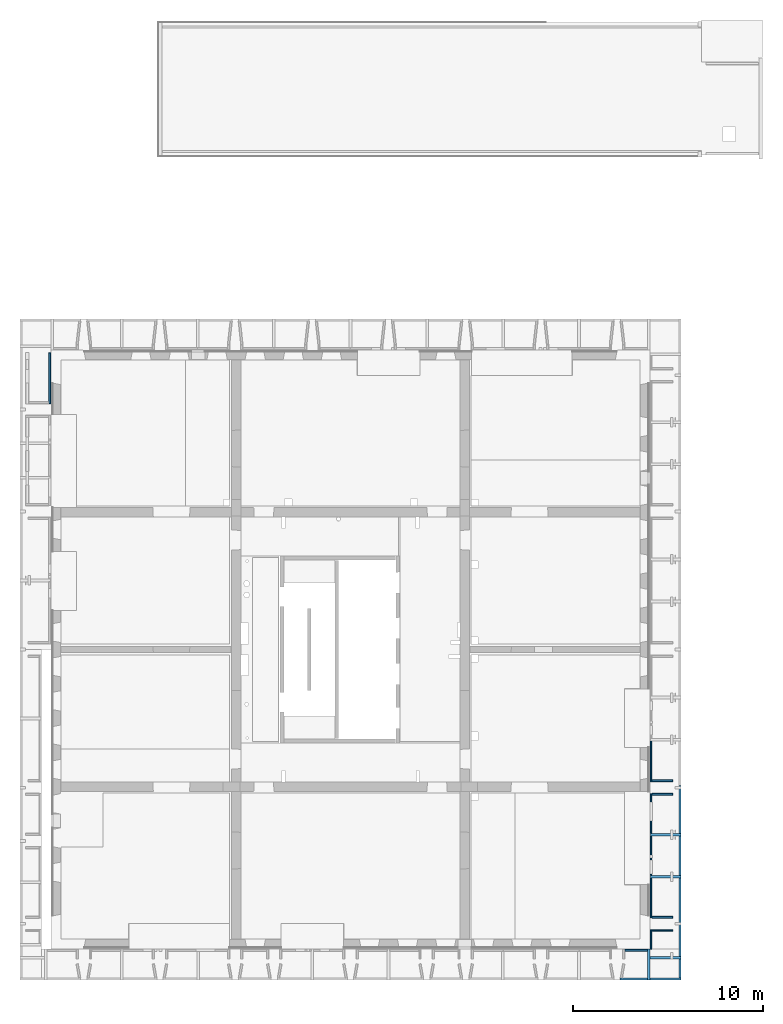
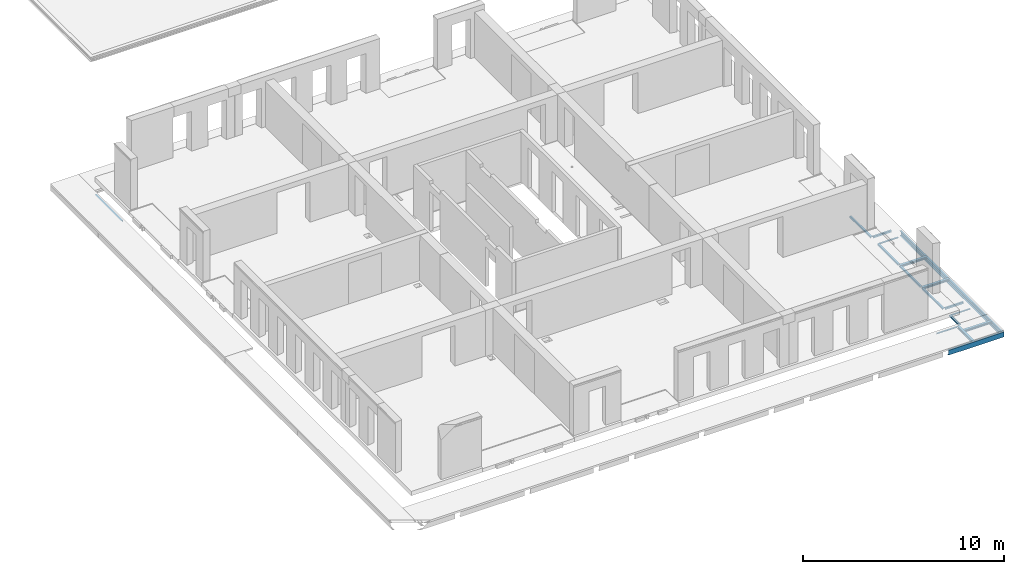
# One storey, part 5 of 27: 17 beams.
"""IFC2X3 building model written with IfcOpenShell, lengths in millimetres."""

from ifc_helpers import new_model, entity, si_unit, converted_unit, derived_unit, direction, frame, frame_2d, origin, place, context, subcontext, project, spatial, polyline, circle_curve, parameter, trimmed, segment, composite_curve, i_section, outline, extrude, material, type_object, element, save


model = new_model("IFC2X3")

# Units and contexts
model_context = context("Model", 3, precision=0.01, world=origin(), true_north=direction((6.12303176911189e-17, 1.0)))
body_context = subcontext(model_context, "Body", "Model", "MODEL_VIEW")
ifc_project = project(units=[si_unit("LENGTHUNIT", "METRE", prefix="MILLI"), si_unit("AREAUNIT", "SQUARE_METRE"), si_unit("VOLUMEUNIT", "CUBIC_METRE"), converted_unit("PLANEANGLEUNIT", "DEGREE", entity("IfcRatioMeasure", 0.0174532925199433), si_unit("PLANEANGLEUNIT", "RADIAN"), dimensions=[0, 0, 0, 0, 0, 0, 0]), si_unit("MASSUNIT", "GRAM", prefix="KILO"), derived_unit("MASSDENSITYUNIT", [(si_unit("MASSUNIT", "GRAM", prefix="KILO"), 1), (si_unit("LENGTHUNIT", "METRE"), -3)]), si_unit("TIMEUNIT", "SECOND"), si_unit("FREQUENCYUNIT", "HERTZ"), si_unit("THERMODYNAMICTEMPERATUREUNIT", "DEGREE_CELSIUS"), derived_unit("THERMALTRANSMITTANCEUNIT", [(si_unit("MASSUNIT", "GRAM", prefix="KILO"), 1), (si_unit("THERMODYNAMICTEMPERATUREUNIT", "KELVIN"), -1), (si_unit("TIMEUNIT", "SECOND"), -3)]), derived_unit("VOLUMETRICFLOWRATEUNIT", [(si_unit("LENGTHUNIT", "METRE"), 3), (si_unit("TIMEUNIT", "SECOND"), -1)]), si_unit("ELECTRICCURRENTUNIT", "AMPERE"), si_unit("ELECTRICVOLTAGEUNIT", "VOLT"), si_unit("POWERUNIT", "WATT"), si_unit("FORCEUNIT", "NEWTON", prefix="KILO"), si_unit("ILLUMINANCEUNIT", "LUX"), si_unit("LUMINOUSFLUXUNIT", "LUMEN"), si_unit("LUMINOUSINTENSITYUNIT", "CANDELA"), derived_unit("USERDEFINED", [(si_unit("MASSUNIT", "GRAM", prefix="KILO"), -1), (si_unit("LENGTHUNIT", "METRE"), -2), (si_unit("TIMEUNIT", "SECOND"), 3), (si_unit("LUMINOUSFLUXUNIT", "LUMEN"), 1)]), derived_unit("LINEARVELOCITYUNIT", [(si_unit("LENGTHUNIT", "METRE"), 1), (si_unit("TIMEUNIT", "SECOND"), -1)]), si_unit("PRESSUREUNIT", "PASCAL"), derived_unit("USERDEFINED", [(si_unit("LENGTHUNIT", "METRE"), -2), (si_unit("MASSUNIT", "GRAM", prefix="KILO"), 1), (si_unit("TIMEUNIT", "SECOND"), -2)])], contexts=[model_context])

# Site, building, storey
site_placement = place(None, origin())
site = spatial("IfcSite", under=ifc_project, at=site_placement, Name="Default", CompositionType="ELEMENT")
building_placement = place(site_placement, origin())
building = spatial("IfcBuilding", under=site, at=building_placement, Name="niet gebruiken", CompositionType="ELEMENT")
storey_placement = place(building_placement, frame((0.0, 0.0, 18000.0)))
storey = spatial("IfcBuildingStorey", under=building, at=storey_placement, Name="05 vijfde verdieping", CompositionType="ELEMENT", Elevation=18000.0)

# Beams
ifc_material = material(Name="NLRS_h2_staal")
beam_type_1 = type_object("IfcBeamType", Name="NLRS_28.11_SF_WPB_stalen ligger HEA_gen:ligger HEA 140", PredefinedType="BEAM")
beam_1_placement = place(storey_placement, frame((157510.0, 7780.0, -1015.0)))
element("IfcBeam", 1, at=beam_1_placement, inside=storey, type_object=beam_type_1, material=ifc_material, Name="NLRS_28.11_SF_WPB_stalen ligger HEA_gen:ligger HEA 140", ObjectType="NLRS_28.11_SF_WPB_stalen ligger HEA_gen:ligger HEA 140", context=body_context, shape_type="SweptSolid", body=[
    extrude(i_section(OverallWidth=140.000000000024, OverallDepth=133.000000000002, WebThickness=5.49999999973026, FlangeThickness=8.50000000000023, FilletRadius=11.9999999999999, at=frame_2d((-3.24718030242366e-12, 5.40012479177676e-13), x_axis=(0.0, 1.0))), frame((0.0, 0.0, -66.5000000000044), z_axis=(1.0, 0.0, 0.0), x_axis=(0.0, 0.0, -1.0)), (0.0, 0.0, 1.0), 1579.73984361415),
])
beam_2_placement = place(storey_placement, frame((157510.0, 5570.0, -1015.0)))
element("IfcBeam", 2, at=beam_2_placement, inside=storey, type_object=beam_type_1, material=ifc_material, Name="NLRS_28.11_SF_WPB_stalen ligger HEA_gen:ligger HEA 140", ObjectType="NLRS_28.11_SF_WPB_stalen ligger HEA_gen:ligger HEA 140", context=body_context, shape_type="SweptSolid", body=[
    extrude(i_section(OverallWidth=140.000000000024, OverallDepth=133.000000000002, WebThickness=5.49999999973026, FlangeThickness=8.50000000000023, FilletRadius=11.9999999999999, at=frame_2d((-3.24718030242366e-12, 5.40012479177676e-13), x_axis=(0.0, 1.0))), frame((0.0, 0.0, -66.5000000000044), z_axis=(1.0, 0.0, 0.0), x_axis=(0.0, 0.0, -1.0)), (0.0, 0.0, 1.0), 1579.99999999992),
])
beam_3_placement = place(storey_placement, frame((157480.0, 1324.0, -1015.0)))
element("IfcBeam", 3, at=beam_3_placement, inside=storey, type_object=beam_type_1, material=ifc_material, Name="NLRS_28.11_SF_WPB_stalen ligger HEA_gen:ligger HEA 140", ObjectType="NLRS_28.11_SF_WPB_stalen ligger HEA_gen:ligger HEA 140", context=body_context, shape_type="SweptSolid", body=[
    extrude(i_section(OverallWidth=140.000000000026, OverallDepth=133.0, WebThickness=5.4999999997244, FlangeThickness=8.49999999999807, FilletRadius=11.9999999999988, at=frame_2d((-2.1600499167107e-12, -1.35003119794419e-13), x_axis=(0.0, 1.0))), frame((0.0, 0.0, -66.5), z_axis=(1.0, 0.0, 0.0), x_axis=(0.0, 0.0, -1.0)), (0.0, 0.0, 1.0), 1609.99999999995),
])
beam_4_placement = place(storey_placement, frame((157410.0, 160.0, -1015.0), z_axis=(0.0, 0.0, 1.0), x_axis=(0.0, 1.0, 0.0)))
element("IfcBeam", 4, at=beam_4_placement, inside=storey, type_object=beam_type_1, material=ifc_material, Name="NLRS_28.11_SF_WPB_stalen ligger HEA_gen:ligger HEA 140", ObjectType="NLRS_28.11_SF_WPB_stalen ligger HEA_gen:ligger HEA 140", context=body_context, shape_type="SweptSolid", body=[
    extrude(i_section(OverallWidth=139.999999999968, OverallDepth=133.0, WebThickness=5.50000000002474, FlangeThickness=8.49999999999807, FilletRadius=12.000000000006, at=frame_2d((-4.33431068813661e-12, 3.46531692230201e-11), x_axis=(0.0, 1.0))), frame((0.0, 0.0, -66.5000000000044), z_axis=(1.0, 0.0, 0.0), x_axis=(0.0, 0.0, -1.0)), (0.0, 0.0, 1.0), 1610.0),
])
beam_type_2 = type_object("IfcBeamType", Name="NLRS_28.11_SF_WPB_stalen ligger UNP_gen:ligger UNP 300", PredefinedType="BEAM")
beam_5_placement = place(storey_placement, frame((159073.0, 177.0, -1015.0), z_axis=(0.0, 0.0, 1.0), x_axis=(0.0, 1.0, 0.0)))
element("IfcBeam", 5, at=beam_5_placement, inside=storey, type_object=beam_type_2, material=ifc_material, Name="NLRS_28.11_SF_WPB_stalen ligger UNP_gen:ligger UNP 300", ObjectType="NLRS_28.11_SF_WPB_stalen ligger UNP_gen:ligger UNP 300", context=body_context, shape_type="SweptSolid", body=[
    extrude(outline(composite_curve([segment(polyline([(-150.062397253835, -54.6666666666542), (149.937602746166, -54.6666666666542)]), True, "CONTINUOUS"), segment(polyline([(149.937602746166, -54.6666666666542), (149.937602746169, 45.3333333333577)]), True, "CONTINUOUS"), segment(polyline([(149.937602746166, 45.3333333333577), (142.655201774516, 45.3333333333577)]), True, "CONTINUOUS"), segment(trimmed(circle_curve(frame_2d((142.655201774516, 37.3333333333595), x_axis=(0.0, 1.0)), 8.00000000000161), [parameter(0.0)], [parameter(89.9999999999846)], True, "PARAMETER"), True, "CONTINUOUS"), segment(polyline([(134.655201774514, 37.3333333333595), (130.39041273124, -28.6666666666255)]), True, "CONTINUOUS"), segment(trimmed(circle_curve(frame_2d((114.390412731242, -28.6666666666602), x_axis=(1.0, 0.0)), 15.9999999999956), [parameter(269.999999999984)], [parameter(0.0)], True, "PARAMETER"), False, "CONTINUOUS"), segment(polyline([(114.39041273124, -44.6666666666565), (-113.875860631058, -44.6666666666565)]), True, "CONTINUOUS"), segment(trimmed(circle_curve(frame_2d((-113.875860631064, -28.6666666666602), x_axis=(0.0, -1.0)), 15.9999999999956), [parameter(269.999999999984)], [parameter(0.0)], True, "PARAMETER"), False, "CONTINUOUS"), segment(polyline([(-129.875860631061, -28.6666666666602), (-135.044959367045, 37.3333333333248)]), True, "CONTINUOUS"), segment(trimmed(circle_curve(frame_2d((-143.04495936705, 37.3333333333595), x_axis=(1.0, 0.0)), 8.00000000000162), [parameter(0.0)], [parameter(89.9999999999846)], True, "PARAMETER"), True, "CONTINUOUS"), segment(polyline([(-143.044959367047, 45.3333333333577), (-150.062397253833, 45.3333333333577)]), True, "CONTINUOUS"), segment(polyline([(-150.062397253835, 45.3333333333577), (-150.062397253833, -54.6666666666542)]), True, "CONTINUOUS")], self_intersect=False)), frame((-27.0, 27.6666666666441, -150.062397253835), z_axis=(1.0, 0.0, 0.0), x_axis=(0.0, 0.0, -1.0)), (0.0, 0.0, 1.0), 10199.9999999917),
])
beam_6_placement = place(storey_placement, frame((159099.857537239, 177.0, -1015.0), z_axis=(0.0, 0.0, 1.0), x_axis=(-1.0, 0.0, 0.0)))
element("IfcBeam", 6, at=beam_6_placement, inside=storey, type_object=beam_type_2, material=ifc_material, Name="NLRS_28.11_SF_WPB_stalen ligger UNP_gen:ligger UNP 300", ObjectType="NLRS_28.11_SF_WPB_stalen ligger UNP_gen:ligger UNP 300", context=body_context, shape_type="SweptSolid", body=[
    extrude(outline(composite_curve([segment(polyline([(-149.937602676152, -45.333333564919), (-142.655201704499, -45.333333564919)]), True, "CONTINUOUS"), segment(trimmed(circle_curve(frame_2d((-142.655201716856, -37.3333335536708), x_axis=(1.54454937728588e-09, -1.0)), 8.00000000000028), [parameter(0.0)], [parameter(89.9999999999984)], True, "PARAMETER"), True, "CONTINUOUS"), segment(polyline([(-134.655201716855, -37.3333335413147), (-130.39041277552, 28.6666664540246)]), True, "CONTINUOUS"), segment(trimmed(circle_curve(frame_2d((-114.390412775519, 28.6666664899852), x_axis=(-1.0, -1.54453161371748e-09)), 16.0), [parameter(270.000000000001)], [parameter(0.0)], True, "PARAMETER"), False, "CONTINUOUS"), segment(polyline([(-114.390412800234, 44.6666664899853), (113.875860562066, 44.666666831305)]), True, "CONTINUOUS"), segment(trimmed(circle_curve(frame_2d((113.875860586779, 28.6666668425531), x_axis=(-1.54452095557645e-09, 1.0)), 15.9999999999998), [parameter(270.0)], [parameter(0.0)], True, "PARAMETER"), False, "CONTINUOUS"), segment(polyline([(129.875860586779, 28.6666668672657), (135.044959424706, -37.3333331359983)]), True, "CONTINUOUS"), segment(trimmed(circle_curve(frame_2d((143.044959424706, -37.3333331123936), x_axis=(-1.0, -1.54456714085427e-09)), 8.00000000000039), [parameter(0.0)], [parameter(89.9999999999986)], True, "PARAMETER"), True, "CONTINUOUS"), segment(polyline([(143.044959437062, -45.3333331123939), (150.06239732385, -45.3333331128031)]), True, "CONTINUOUS"), segment(polyline([(150.06239732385, -45.3333331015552), (150.062397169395, 54.6666668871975)]), True, "CONTINUOUS"), segment(polyline([(150.062397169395, 54.6666668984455), (-149.937602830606, 54.6666664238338)]), True, "CONTINUOUS"), segment(polyline([(-149.937602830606, 54.6666664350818), (-149.937602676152, -45.333333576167)]), True, "CONTINUOUS")], self_intersect=False)), frame((0.0, -27.6666666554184, -149.937602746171), z_axis=(1.0, 0.0, 0.0), x_axis=(0.0, -1.54454249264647e-09, -1.0)), (0.0, 0.0, 1.0), 3187.8908373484),
])
beam_type_3 = type_object("IfcBeamType", Name="NLRS_28.11_SF_WPB_stalen ligger hoekprofiel gelijkzijdig_gen:ligger gelijzijdig hoekprofiel LEQU_100x100x10", PredefinedType="BEAM")
beam_7_placement = place(storey_placement, frame((157480.0, 10550.0, -1015.0), z_axis=(0.0, 0.0, 1.0), x_axis=(0.0, 1.0, 0.0)))
element("IfcBeam", 7, at=beam_7_placement, inside=storey, type_object=beam_type_3, material=ifc_material, Name="NLRS_28.11_SF_WPB_stalen ligger hoekprofiel gelijkzijdig_gen:ligger gelijzijdig hoekprofiel LEQU_100x100x10", ObjectType="NLRS_28.11_SF_WPB_stalen ligger hoekprofiel gelijkzijdig_gen:ligger gelijzijdig hoekprofiel LEQU_100x100x10", context=body_context, shape_type="SweptSolid", body=[
    extrude(outline(composite_curve([segment(polyline([(-37.7777777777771, -62.2222222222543), (-33.7777777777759, -62.2222222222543)]), True, "CONTINUOUS"), segment(trimmed(circle_curve(frame_2d((-33.7777777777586, -56.2222222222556), x_axis=(0.0, -1.0)), 5.9999999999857), [parameter(0.0)], [parameter(90.0000000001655)], True, "PARAMETER"), True, "CONTINUOUS"), segment(polyline([(-27.7777777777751, -56.2222222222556), (-27.7777777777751, 15.777777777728)]), True, "CONTINUOUS"), segment(trimmed(circle_curve(frame_2d((-15.7777777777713, 15.7777777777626), x_axis=(-1.0, 0.0)), 12.000000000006), [parameter(270.000000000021)], [parameter(0.0)], True, "PARAMETER"), False, "CONTINUOUS"), segment(polyline([(-15.7777777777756, 27.7777777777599), (56.2222222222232, 27.7777777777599)]), True, "CONTINUOUS"), segment(trimmed(circle_curve(frame_2d((56.2222222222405, 33.7777777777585), x_axis=(0.0, -1.0)), 5.9999999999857), [parameter(0.0)], [parameter(90.0000000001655)], True, "PARAMETER"), True, "CONTINUOUS"), segment(polyline([(62.222222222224, 33.7777777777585), (62.222222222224, 37.7777777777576)]), True, "CONTINUOUS"), segment(polyline([(62.222222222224, 37.7777777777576), (-37.7777777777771, 37.7777777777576)]), True, "CONTINUOUS"), segment(polyline([(-37.7777777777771, 37.7777777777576), (-37.7777777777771, -62.2222222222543)]), True, "CONTINUOUS")], self_intersect=False)), frame((10.0000006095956, -37.7777777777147, -37.7777777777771), z_axis=(1.0, 0.0, 0.0), x_axis=(0.0, 0.0, -1.0)), (0.0, 0.0, 1.0), 2129.99999939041),
])
beam_8_placement = place(storey_placement, frame((157480.0, 3390.0, -1015.0), z_axis=(0.0, 0.0, 1.0), x_axis=(0.0, 1.0, 0.0)))
element("IfcBeam", 8, at=beam_8_placement, inside=storey, type_object=beam_type_3, material=ifc_material, Name="NLRS_28.11_SF_WPB_stalen ligger hoekprofiel gelijkzijdig_gen:ligger gelijzijdig hoekprofiel LEQU_100x100x10", ObjectType="NLRS_28.11_SF_WPB_stalen ligger hoekprofiel gelijkzijdig_gen:ligger gelijzijdig hoekprofiel LEQU_100x100x10", context=body_context, shape_type="SweptSolid", body=[
    extrude(outline(composite_curve([segment(polyline([(-37.7777777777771, -62.2222222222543), (-33.7777777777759, -62.2222222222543)]), True, "CONTINUOUS"), segment(trimmed(circle_curve(frame_2d((-33.7777777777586, -56.2222222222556), x_axis=(0.0, -1.0)), 5.9999999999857), [parameter(0.0)], [parameter(90.0000000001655)], True, "PARAMETER"), True, "CONTINUOUS"), segment(polyline([(-27.7777777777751, -56.2222222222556), (-27.7777777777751, 15.777777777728)]), True, "CONTINUOUS"), segment(trimmed(circle_curve(frame_2d((-15.7777777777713, 15.7777777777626), x_axis=(-1.0, 0.0)), 12.000000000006), [parameter(270.000000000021)], [parameter(0.0)], True, "PARAMETER"), False, "CONTINUOUS"), segment(polyline([(-15.7777777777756, 27.7777777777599), (56.2222222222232, 27.7777777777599)]), True, "CONTINUOUS"), segment(trimmed(circle_curve(frame_2d((56.2222222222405, 33.7777777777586), x_axis=(0.0, -1.0)), 5.9999999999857), [parameter(0.0)], [parameter(90.0000000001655)], True, "PARAMETER"), True, "CONTINUOUS"), segment(polyline([(62.222222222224, 33.7777777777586), (62.222222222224, 37.7777777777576)]), True, "CONTINUOUS"), segment(polyline([(62.222222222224, 37.7777777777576), (-37.7777777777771, 37.7777777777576)]), True, "CONTINUOUS"), segment(polyline([(-37.7777777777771, 37.7777777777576), (-37.7777777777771, -62.2222222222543)]), True, "CONTINUOUS")], self_intersect=False)), frame((20.0, -37.7777777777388, -37.7777777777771), z_axis=(1.0, 0.0, 0.0), x_axis=(0.0, 0.0, -1.0)), (0.0, 0.0, 1.0), 2080.00000000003),
])
beam_9_placement = place(storey_placement, frame((157480.0, 5640.0, -1015.0), z_axis=(0.0, 0.0, 1.0), x_axis=(0.0, 1.0, 0.0)))
element("IfcBeam", 9, at=beam_9_placement, inside=storey, type_object=beam_type_3, material=ifc_material, Name="NLRS_28.11_SF_WPB_stalen ligger hoekprofiel gelijkzijdig_gen:ligger gelijzijdig hoekprofiel LEQU_100x100x10", ObjectType="NLRS_28.11_SF_WPB_stalen ligger hoekprofiel gelijkzijdig_gen:ligger gelijzijdig hoekprofiel LEQU_100x100x10", context=body_context, shape_type="SweptSolid", body=[
    extrude(outline(composite_curve([segment(polyline([(-37.7777777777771, -62.2222222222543), (-33.7777777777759, -62.2222222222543)]), True, "CONTINUOUS"), segment(trimmed(circle_curve(frame_2d((-33.7777777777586, -56.2222222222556), x_axis=(0.0, -1.0)), 5.9999999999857), [parameter(0.0)], [parameter(90.0000000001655)], True, "PARAMETER"), True, "CONTINUOUS"), segment(polyline([(-27.7777777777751, -56.2222222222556), (-27.7777777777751, 15.777777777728)]), True, "CONTINUOUS"), segment(trimmed(circle_curve(frame_2d((-15.7777777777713, 15.7777777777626), x_axis=(-1.0, 0.0)), 12.000000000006), [parameter(270.000000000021)], [parameter(0.0)], True, "PARAMETER"), False, "CONTINUOUS"), segment(polyline([(-15.7777777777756, 27.7777777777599), (56.2222222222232, 27.7777777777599)]), True, "CONTINUOUS"), segment(trimmed(circle_curve(frame_2d((56.2222222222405, 33.7777777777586), x_axis=(0.0, -1.0)), 5.9999999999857), [parameter(0.0)], [parameter(90.0000000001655)], True, "PARAMETER"), True, "CONTINUOUS"), segment(polyline([(62.222222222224, 33.7777777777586), (62.222222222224, 37.7777777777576)]), True, "CONTINUOUS"), segment(polyline([(62.222222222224, 37.7777777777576), (-37.7777777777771, 37.7777777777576)]), True, "CONTINUOUS"), segment(polyline([(-37.7777777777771, 37.7777777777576), (-37.7777777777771, -62.2222222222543)]), True, "CONTINUOUS")], self_intersect=False)), frame((10.0, -37.7777777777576, -37.7777777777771), z_axis=(1.0, 0.0, 0.0), x_axis=(0.0, 0.0, -1.0)), (0.0, 0.0, 1.0), 2050.0),
])
beam_10_placement = place(storey_placement, frame((157480.0, 7850.0, -1015.0), z_axis=(0.0, 0.0, 1.0), x_axis=(0.0, 1.0, 0.0)))
element("IfcBeam", 10, at=beam_10_placement, inside=storey, type_object=beam_type_3, material=ifc_material, Name="NLRS_28.11_SF_WPB_stalen ligger hoekprofiel gelijkzijdig_gen:ligger gelijzijdig hoekprofiel LEQU_100x100x10", ObjectType="NLRS_28.11_SF_WPB_stalen ligger hoekprofiel gelijkzijdig_gen:ligger gelijzijdig hoekprofiel LEQU_100x100x10", context=body_context, shape_type="SweptSolid", body=[
    extrude(outline(composite_curve([segment(polyline([(-37.7777777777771, -62.2222222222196), (-33.7777777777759, -62.2222222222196)]), True, "CONTINUOUS"), segment(trimmed(circle_curve(frame_2d((-33.7777777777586, -56.222222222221), x_axis=(0.0, -1.0)), 5.9999999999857), [parameter(0.0)], [parameter(90.0000000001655)], True, "PARAMETER"), True, "CONTINUOUS"), segment(polyline([(-27.7777777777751, -56.222222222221), (-27.7777777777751, 15.7777777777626)]), True, "CONTINUOUS"), segment(trimmed(circle_curve(frame_2d((-15.7777777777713, 15.7777777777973), x_axis=(-1.0, 0.0)), 12.000000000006), [parameter(270.000000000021)], [parameter(0.0)], True, "PARAMETER"), False, "CONTINUOUS"), segment(polyline([(-15.7777777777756, 27.7777777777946), (56.2222222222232, 27.7777777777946)]), True, "CONTINUOUS"), segment(trimmed(circle_curve(frame_2d((56.2222222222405, 33.7777777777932), x_axis=(0.0, -1.0)), 5.9999999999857), [parameter(0.0)], [parameter(90.0000000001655)], True, "PARAMETER"), True, "CONTINUOUS"), segment(polyline([(62.222222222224, 33.7777777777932), (62.222222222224, 37.7777777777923)]), True, "CONTINUOUS"), segment(polyline([(62.222222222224, 37.7777777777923), (-37.7777777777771, 37.7777777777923)]), True, "CONTINUOUS"), segment(polyline([(-37.7777777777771, 37.7777777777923), (-37.7777777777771, -62.2222222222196)]), True, "CONTINUOUS")], self_intersect=False)), frame((10.0, -37.777777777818, -37.7777777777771), z_axis=(1.0, 0.0, 0.0), x_axis=(0.0, 0.0, -1.0)), (0.0, 0.0, 1.0), 2079.99999999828),
])
beam_11_placement = place(storey_placement, frame((126020.0, 33090.0, -1015.0), z_axis=(0.0, 0.0, 1.0), x_axis=(0.0, -1.0, 0.0)))
element("IfcBeam", 11, at=beam_11_placement, inside=storey, type_object=beam_type_3, material=ifc_material, Name="NLRS_28.11_SF_WPB_stalen ligger hoekprofiel gelijkzijdig_gen:ligger gelijzijdig hoekprofiel LEQU_100x100x10", ObjectType="NLRS_28.11_SF_WPB_stalen ligger hoekprofiel gelijkzijdig_gen:ligger gelijzijdig hoekprofiel LEQU_100x100x10", context=body_context, shape_type="SweptSolid", body=[
    extrude(outline(composite_curve([segment(polyline([(-37.7777777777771, -62.2222222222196), (-33.7777777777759, -62.2222222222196)]), True, "CONTINUOUS"), segment(trimmed(circle_curve(frame_2d((-33.7777777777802, -56.2222222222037), x_axis=(0.0, -1.0)), 6.00000000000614), [parameter(0.0)], [parameter(89.9999999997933)], True, "PARAMETER"), True, "CONTINUOUS"), segment(polyline([(-27.7777777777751, -56.222222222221), (-27.7777777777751, 15.77777777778)]), True, "CONTINUOUS"), segment(trimmed(circle_curve(frame_2d((-15.7777777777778, 15.77777777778), x_axis=(-1.0, 0.0)), 11.9999999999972), [parameter(269.99999999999)], [parameter(0.0)], True, "PARAMETER"), False, "CONTINUOUS"), segment(polyline([(-15.7777777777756, 27.7777777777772), (56.2222222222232, 27.7777777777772)]), True, "CONTINUOUS"), segment(trimmed(circle_curve(frame_2d((56.2222222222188, 33.7777777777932), x_axis=(0.0, -1.0)), 6.00000000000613), [parameter(0.0)], [parameter(89.9999999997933)], True, "PARAMETER"), True, "CONTINUOUS"), segment(polyline([(62.222222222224, 33.7777777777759), (62.222222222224, 37.777777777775)]), True, "CONTINUOUS"), segment(polyline([(62.222222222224, 37.777777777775), (-37.7777777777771, 37.777777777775)]), True, "CONTINUOUS"), segment(polyline([(-37.7777777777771, 37.777777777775), (-37.7777777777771, -62.2222222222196)]), True, "CONTINUOUS")], self_intersect=False)), frame((20.0, -37.7777777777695, -37.7777777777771), z_axis=(1.0, 0.0, 0.0), x_axis=(0.0, 0.0, -1.0)), (0.0, 0.0, 1.0), 2657.30000000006),
])
beam_12_placement = place(storey_placement, frame((158680.0, 10550.0, -1015.0), z_axis=(0.0, 0.0, 1.0), x_axis=(-1.0, 0.0, 0.0)))
element("IfcBeam", 12, at=beam_12_placement, inside=storey, type_object=beam_type_3, material=ifc_material, Name="NLRS_28.11_SF_WPB_stalen ligger hoekprofiel gelijkzijdig_gen:ligger gelijzijdig hoekprofiel LEQU_100x100x10", ObjectType="NLRS_28.11_SF_WPB_stalen ligger hoekprofiel gelijkzijdig_gen:ligger gelijzijdig hoekprofiel LEQU_100x100x10", context=body_context, shape_type="SweptSolid", body=[
    extrude(outline(composite_curve([segment(polyline([(-37.7777777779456, -62.2222222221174), (-33.7777777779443, -62.2222222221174)]), True, "CONTINUOUS"), segment(trimmed(circle_curve(frame_2d((-33.7777777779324, -56.2222222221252), x_axis=(0.0, -1.0)), 6.00000000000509), [parameter(0.0)], [parameter(89.9999999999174)], True, "PARAMETER"), True, "CONTINUOUS"), segment(polyline([(-27.7777777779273, -56.2222222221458), (-27.7777777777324, 15.777777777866)]), True, "CONTINUOUS"), segment(trimmed(circle_curve(frame_2d((-15.7777777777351, 15.7777777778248), x_axis=(-1.0, 0.0)), 11.9999999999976), [parameter(269.999999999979)], [parameter(0.0)], True, "PARAMETER"), False, "CONTINUOUS"), segment(polyline([(-15.7777777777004, 27.7777777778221), (56.2222222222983, 27.777777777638)]), True, "CONTINUOUS"), segment(trimmed(circle_curve(frame_2d((56.2222222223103, 33.7777777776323), x_axis=(0.0, -1.0)), 6.00000000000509), [parameter(0.0)], [parameter(89.9999999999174)], True, "PARAMETER"), True, "CONTINUOUS"), segment(polyline([(62.2222222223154, 33.7777777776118), (62.2222222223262, 37.7777777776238)]), True, "CONTINUOUS"), segment(polyline([(62.2222222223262, 37.7777777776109), (-37.7777777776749, 37.7777777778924)]), True, "CONTINUOUS"), segment(polyline([(-37.7777777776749, 37.7777777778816), (-37.7777777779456, -62.2222222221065)]), True, "CONTINUOUS")], self_intersect=False)), frame((20.0000006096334, -37.7777777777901, -37.7777777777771), z_axis=(1.0, 0.0, 0.0), x_axis=(0.0, 0.0, -1.0)), (0.0, 0.0, 1.0), 1069.03787794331),
])
beam_13_placement = place(storey_placement, frame((158680.0, 3400.0, -1015.0), z_axis=(0.0, 0.0, 1.0), x_axis=(-1.0, 0.0, 0.0)))
element("IfcBeam", 13, at=beam_13_placement, inside=storey, type_object=beam_type_3, material=ifc_material, Name="NLRS_28.11_SF_WPB_stalen ligger hoekprofiel gelijkzijdig_gen:ligger gelijzijdig hoekprofiel LEQU_100x100x10", ObjectType="NLRS_28.11_SF_WPB_stalen ligger hoekprofiel gelijkzijdig_gen:ligger gelijzijdig hoekprofiel LEQU_100x100x10", context=body_context, shape_type="SweptSolid", body=[
    extrude(outline(composite_curve([segment(polyline([(-37.777777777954, -62.2222222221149), (-33.7777777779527, -62.2222222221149)]), True, "CONTINUOUS"), segment(trimmed(circle_curve(frame_2d((-33.7777777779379, -56.2222222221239), x_axis=(0.0, -1.0)), 6.00000000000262), [parameter(0.0)], [parameter(89.9999999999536)], True, "PARAMETER"), True, "CONTINUOUS"), segment(polyline([(-27.7777777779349, -56.2222222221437), (-27.7777777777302, 15.7777777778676)]), True, "CONTINUOUS"), segment(trimmed(circle_curve(frame_2d((-15.7777777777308, 15.7777777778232), x_axis=(-1.0, 0.0)), 11.9999999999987), [parameter(269.999999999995)], [parameter(0.0)], True, "PARAMETER"), False, "CONTINUOUS"), segment(polyline([(-15.7777777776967, 27.7777777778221), (56.2222222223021, 27.7777777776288)]), True, "CONTINUOUS"), segment(trimmed(circle_curve(frame_2d((56.222222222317, 33.7777777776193), x_axis=(0.0, -1.0)), 6.00000000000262), [parameter(0.0)], [parameter(89.9999999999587)], True, "PARAMETER"), True, "CONTINUOUS"), segment(polyline([(62.22222222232, 33.7777777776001), (62.2222222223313, 37.7777777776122)]), True, "CONTINUOUS"), segment(polyline([(62.2222222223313, 37.7777777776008), (-37.7777777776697, 37.777777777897)]), True, "CONTINUOUS"), segment(polyline([(-37.7777777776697, 37.7777777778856), (-37.777777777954, -62.2222222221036)]), True, "CONTINUOUS")], self_intersect=False)), frame((20.0000006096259, -37.7777777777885, -37.7777777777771), z_axis=(1.0, 0.0, 0.0), x_axis=(0.0, 0.0, -1.0)), (0.0, 0.0, 1.0), 1069.03787794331),
])
beam_14_placement = place(storey_placement, frame((158680.0, 9950.0, -1015.0), z_axis=(0.0, 0.0, 1.0), x_axis=(-1.0, 0.0, 0.0)))
element("IfcBeam", 14, at=beam_14_placement, inside=storey, type_object=beam_type_3, material=ifc_material, Name="NLRS_28.11_SF_WPB_stalen ligger hoekprofiel gelijkzijdig_gen:ligger gelijzijdig hoekprofiel LEQU_100x100x10", ObjectType="NLRS_28.11_SF_WPB_stalen ligger hoekprofiel gelijkzijdig_gen:ligger gelijzijdig hoekprofiel LEQU_100x100x10", context=body_context, shape_type="SweptSolid", body=[
    extrude(outline(composite_curve([segment(polyline([(-37.7777777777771, -37.7777777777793), (62.222222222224, -37.7777777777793)]), True, "CONTINUOUS"), segment(polyline([(62.222222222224, -37.7777777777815), (62.222222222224, -33.7777777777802)]), True, "CONTINUOUS"), segment(trimmed(circle_curve(frame_2d((56.2222222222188, -33.7777777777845), x_axis=(1.0, 0.0)), 6.00000000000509), [parameter(0.0)], [parameter(89.9999999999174)], True, "PARAMETER"), True, "CONTINUOUS"), segment(polyline([(56.2222222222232, -27.7777777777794), (-15.7777777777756, -27.7777777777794)]), True, "CONTINUOUS"), segment(trimmed(circle_curve(frame_2d((-15.7777777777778, -15.7777777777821), x_axis=(0.0, -1.0)), 11.9999999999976), [parameter(269.999999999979)], [parameter(0.0)], True, "PARAMETER"), False, "CONTINUOUS"), segment(polyline([(-27.7777777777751, -15.7777777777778), (-27.7777777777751, 56.222222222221)]), True, "CONTINUOUS"), segment(trimmed(circle_curve(frame_2d((-33.7777777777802, 56.2222222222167), x_axis=(1.0, 0.0)), 6.00000000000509), [parameter(0.0)], [parameter(89.9999999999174)], True, "PARAMETER"), True, "CONTINUOUS"), segment(polyline([(-33.7777777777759, 62.2222222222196), (-37.7777777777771, 62.2222222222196)]), True, "CONTINUOUS"), segment(polyline([(-37.7777777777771, 62.2222222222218), (-37.7777777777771, -37.7777777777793)]), True, "CONTINUOUS")], self_intersect=False)), frame((20.000000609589, 37.7777777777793, -37.7777777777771), z_axis=(1.0, 0.0, 0.0), x_axis=(0.0, 0.0, -1.0)), (0.0, 0.0, 1.0), 1069.03787794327),
])
beam_15_placement = place(storey_placement, frame((158680.0, 2800.0, -1015.0), z_axis=(0.0, 0.0, 1.0), x_axis=(-1.0, 0.0, 0.0)))
element("IfcBeam", 15, at=beam_15_placement, inside=storey, type_object=beam_type_3, material=ifc_material, Name="NLRS_28.11_SF_WPB_stalen ligger hoekprofiel gelijkzijdig_gen:ligger gelijzijdig hoekprofiel LEQU_100x100x10", ObjectType="NLRS_28.11_SF_WPB_stalen ligger hoekprofiel gelijkzijdig_gen:ligger gelijzijdig hoekprofiel LEQU_100x100x10", context=body_context, shape_type="SweptSolid", body=[
    extrude(outline(composite_curve([segment(polyline([(-37.7777777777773, -37.777777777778), (62.2222222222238, -37.777777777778)]), True, "CONTINUOUS"), segment(polyline([(62.2222222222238, -37.777777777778), (62.2222222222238, -33.7777777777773)]), True, "CONTINUOUS"), segment(trimmed(circle_curve(frame_2d((56.2222222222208, -33.7777777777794), x_axis=(1.0, 0.0)), 6.00000000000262), [parameter(0.0)], [parameter(89.9999999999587)], True, "PARAMETER"), True, "CONTINUOUS"), segment(polyline([(56.222222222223, -27.7777777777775), (-15.7777777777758, -27.7777777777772)]), True, "CONTINUOUS"), segment(trimmed(circle_curve(frame_2d((-15.7777777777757, -15.7777777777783), x_axis=(0.0, -1.0)), 11.9999999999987), [parameter(269.999999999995)], [parameter(0.0)], True, "PARAMETER"), False, "CONTINUOUS"), segment(polyline([(-27.7777777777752, -15.7777777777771), (-27.7777777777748, 56.2222222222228)]), True, "CONTINUOUS"), segment(trimmed(circle_curve(frame_2d((-33.7777777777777, 56.2222222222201), x_axis=(1.0, 0.0)), 6.00000000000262), [parameter(0.0)], [parameter(89.9999999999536)], True, "PARAMETER"), True, "CONTINUOUS"), segment(polyline([(-33.7777777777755, 62.2222222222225), (-37.7777777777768, 62.2222222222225)]), True, "CONTINUOUS"), segment(polyline([(-37.7777777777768, 62.2222222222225), (-37.7777777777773, -37.777777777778)]), True, "CONTINUOUS")], self_intersect=False)), frame((20.000000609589, 37.7777777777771, -37.7777777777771), z_axis=(1.0, 0.0, 0.0), x_axis=(0.0, 0.0, -1.0)), (0.0, 0.0, 1.0), 1069.03787794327),
])
beam_16_placement = place(storey_placement, frame((157480.0, 1770.0, -1015.0), z_axis=(0.0, 0.0, 1.0), x_axis=(0.0, 1.0, 0.0)))
element("IfcBeam", 16, at=beam_16_placement, inside=storey, type_object=beam_type_3, material=ifc_material, Name="NLRS_28.11_SF_WPB_stalen ligger hoekprofiel gelijkzijdig_gen:ligger gelijzijdig hoekprofiel LEQU_100x100x10", ObjectType="NLRS_28.11_SF_WPB_stalen ligger hoekprofiel gelijkzijdig_gen:ligger gelijzijdig hoekprofiel LEQU_100x100x10", context=body_context, shape_type="SweptSolid", body=[
    extrude(outline(composite_curve([segment(polyline([(-37.7777777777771, -62.2222222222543), (-33.777777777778, -62.2222222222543)]), True, "CONTINUOUS"), segment(trimmed(circle_curve(frame_2d((-33.7777777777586, -56.2222222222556), x_axis=(0.0, -1.0)), 5.9999999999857), [parameter(0.0)], [parameter(90.0000000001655)], True, "PARAMETER"), True, "CONTINUOUS"), segment(polyline([(-27.7777777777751, -56.2222222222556), (-27.7777777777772, 15.777777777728)]), True, "CONTINUOUS"), segment(trimmed(circle_curve(frame_2d((-15.7777777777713, 15.7777777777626), x_axis=(-1.0, 0.0)), 12.000000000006), [parameter(270.000000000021)], [parameter(0.0)], True, "PARAMETER"), False, "CONTINUOUS"), segment(polyline([(-15.7777777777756, 27.7777777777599), (56.2222222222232, 27.7777777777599)]), True, "CONTINUOUS"), segment(trimmed(circle_curve(frame_2d((56.2222222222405, 33.7777777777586), x_axis=(0.0, -1.0)), 5.9999999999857), [parameter(0.0)], [parameter(90.0000000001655)], True, "PARAMETER"), True, "CONTINUOUS"), segment(polyline([(62.222222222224, 33.7777777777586), (62.2222222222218, 37.7777777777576)]), True, "CONTINUOUS"), segment(polyline([(62.222222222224, 37.7777777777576), (-37.7777777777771, 37.7777777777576)]), True, "CONTINUOUS"), segment(polyline([(-37.7777777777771, 37.7777777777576), (-37.7777777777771, -62.2222222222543)]), True, "CONTINUOUS")], self_intersect=False)), frame((0.0, -37.7777777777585, -37.7777777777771), z_axis=(1.0, 0.0, 0.0), x_axis=(0.0, 0.0, -1.0)), (0.0, 0.0, 1.0), 1020.00000000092),
])
beam_17_placement = place(storey_placement, frame((157410.0, 1770.0, -1015.0), z_axis=(0.0, 0.0, 1.0), x_axis=(-1.0, 0.0, 0.0)))
element("IfcBeam", 17, at=beam_17_placement, inside=storey, type_object=beam_type_3, material=ifc_material, Name="NLRS_28.11_SF_WPB_stalen ligger hoekprofiel gelijkzijdig_gen:ligger gelijzijdig hoekprofiel LEQU_100x100x10", ObjectType="NLRS_28.11_SF_WPB_stalen ligger hoekprofiel gelijkzijdig_gen:ligger gelijzijdig hoekprofiel LEQU_100x100x10", context=body_context, shape_type="SweptSolid", body=[
    extrude(outline(composite_curve([segment(polyline([(-37.7777777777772, -37.7777777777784), (62.2222222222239, -37.7777777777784)]), True, "CONTINUOUS"), segment(polyline([(62.2222222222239, -37.7777777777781), (62.2222222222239, -33.7777777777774)]), True, "CONTINUOUS"), segment(trimmed(circle_curve(frame_2d((56.2222222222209, -33.7777777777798), x_axis=(1.0, 0.0)), 6.00000000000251), [parameter(0.0)], [parameter(89.9999999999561)], True, "PARAMETER"), True, "CONTINUOUS"), segment(polyline([(56.2222222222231, -27.7777777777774), (-15.7777777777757, -27.7777777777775)]), True, "CONTINUOUS"), segment(trimmed(circle_curve(frame_2d((-15.7777777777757, -15.7777777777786), x_axis=(0.0, -1.0)), 11.9999999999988), [parameter(269.999999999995)], [parameter(0.0)], True, "PARAMETER"), False, "CONTINUOUS"), segment(polyline([(-27.7777777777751, -15.7777777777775), (-27.7777777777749, 56.2222222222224)]), True, "CONTINUOUS"), segment(trimmed(circle_curve(frame_2d((-33.7777777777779, 56.2222222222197), x_axis=(1.0, 0.0)), 6.00000000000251), [parameter(0.0)], [parameter(89.9999999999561)], True, "PARAMETER"), True, "CONTINUOUS"), segment(polyline([(-33.7777777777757, 62.2222222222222), (-37.777777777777, 62.2222222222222)]), True, "CONTINUOUS"), segment(polyline([(-37.777777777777, 62.2222222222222), (-37.7777777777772, -37.7777777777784)]), True, "CONTINUOUS")], self_intersect=False)), frame((77.7240337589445, 37.7777777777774, -37.7777777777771), z_axis=(1.0, 0.0, 0.0), x_axis=(0.0, 0.0, -1.0)), (0.0, 0.0, 1.0), 1172.19418698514),
])

save(model, "model.ifc")
